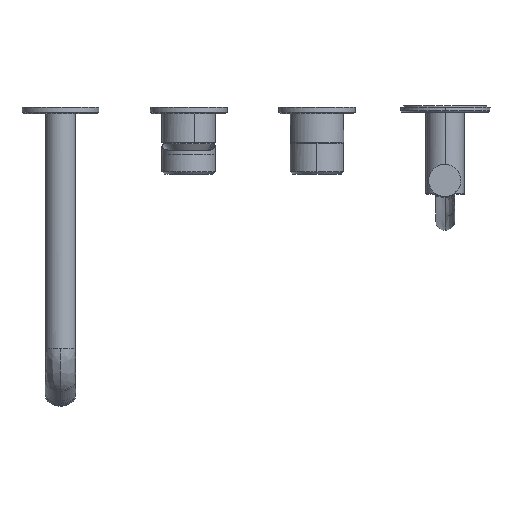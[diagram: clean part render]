
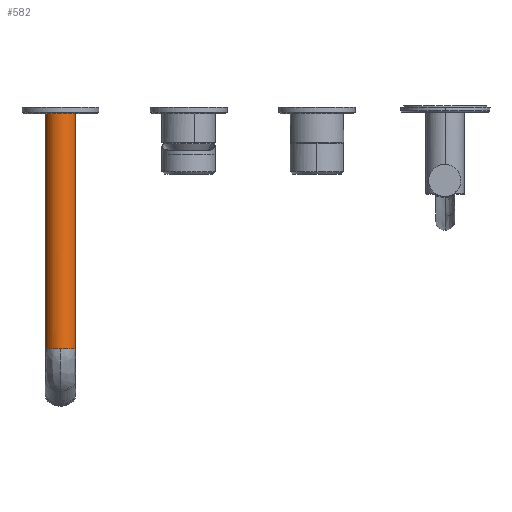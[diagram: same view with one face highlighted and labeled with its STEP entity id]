
A CAD part, top view. The second image highlights one B-rep face of the part: STEP entity #582.
In plain terms, the highlighted cylindrical face has radius 12 mm (diameter 24 mm), a partial arc.
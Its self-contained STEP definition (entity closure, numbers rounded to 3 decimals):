
#582=ADVANCED_FACE('',(#1632),#16079,.T.);
#1632=FACE_OUTER_BOUND('',#2687,.T.);
#2687=EDGE_LOOP('',(#4229,#4230,#4231,#4232,#4233));
#4229=ORIENTED_EDGE('',*,*,#8673,.T.);
#4230=ORIENTED_EDGE('',*,*,#8670,.T.);
#4231=ORIENTED_EDGE('',*,*,#8671,.T.);
#4232=ORIENTED_EDGE('',*,*,#8672,.T.);
#4233=ORIENTED_EDGE('',*,*,#8651,.F.);
#8651=EDGE_CURVE('',#13899,#13900,#12449,.T.);
#8670=EDGE_CURVE('',#13915,#13916,#12460,.T.);
#8671=EDGE_CURVE('',#13916,#13914,#11283,.T.);
#8672=EDGE_CURVE('',#13914,#13900,#12461,.T.);
#8673=EDGE_CURVE('',#13899,#13915,#11284,.T.);
#11283=B_SPLINE_CURVE_WITH_KNOTS('',1,(#23392,#23393,#23394),
 .UNSPECIFIED.,.F.,.F.,(2,1,2),(1.,6.,189.299),
 .UNSPECIFIED.);
#11284=B_SPLINE_CURVE_WITH_KNOTS('',1,(#23398,#23399,#23400),
 .UNSPECIFIED.,.F.,.F.,(2,1,2),(0.,183.299,188.299),
 .UNSPECIFIED.);
#12449=(
BOUNDED_CURVE()
B_SPLINE_CURVE(2,(#23324,#23325,#23326),.UNSPECIFIED.,.F.,.F.)
B_SPLINE_CURVE_WITH_KNOTS((3,3),(0.,18.85),.UNSPECIFIED.)
CURVE()
GEOMETRIC_REPRESENTATION_ITEM()
RATIONAL_B_SPLINE_CURVE((1.,0.707,1.))
REPRESENTATION_ITEM('')
);
#12460=(
BOUNDED_CURVE()
B_SPLINE_CURVE(2,(#23387,#23388,#23389,#23390,#23391),.UNSPECIFIED.,.F.,
 .F.)
B_SPLINE_CURVE_WITH_KNOTS((3,2,3),(1.571,3.142,4.712),
 .UNSPECIFIED.)
CURVE()
GEOMETRIC_REPRESENTATION_ITEM()
RATIONAL_B_SPLINE_CURVE((1.,0.707,1.,0.707,1.))
REPRESENTATION_ITEM('')
);
#12461=(
BOUNDED_CURVE()
B_SPLINE_CURVE(2,(#23395,#23396,#23397),.UNSPECIFIED.,.F.,.F.)
B_SPLINE_CURVE_WITH_KNOTS((3,3),(0.,18.85),.UNSPECIFIED.)
CURVE()
GEOMETRIC_REPRESENTATION_ITEM()
RATIONAL_B_SPLINE_CURVE((1.,0.707,1.))
REPRESENTATION_ITEM('')
);
#13899=VERTEX_POINT('',#23306);
#13900=VERTEX_POINT('',#23307);
#13914=VERTEX_POINT('',#23321);
#13915=VERTEX_POINT('',#23322);
#13916=VERTEX_POINT('',#23323);
#16079=CYLINDRICAL_SURFACE('',#16792,12.);
#16792=AXIS2_PLACEMENT_3D('',#23200,#17514,$);
#17514=DIRECTION('',(0.,-1.,0.));
#23200=CARTESIAN_POINT('',(-200.,-93.65,499.975));
#23306=CARTESIAN_POINT('',(-188.,-188.299,499.975));
#23307=CARTESIAN_POINT('',(-200.,-188.299,511.975));
#23321=CARTESIAN_POINT('',(-212.,-188.299,499.975));
#23322=CARTESIAN_POINT('',(-188.,0.,499.975));
#23323=CARTESIAN_POINT('',(-212.,0.,499.975));
#23324=CARTESIAN_POINT('',(-188.,-188.299,499.975));
#23325=CARTESIAN_POINT('',(-188.,-188.299,511.975));
#23326=CARTESIAN_POINT('',(-200.,-188.299,511.975));
#23387=CARTESIAN_POINT('',(-188.,0.,499.975));
#23388=CARTESIAN_POINT('',(-188.,0.,511.975));
#23389=CARTESIAN_POINT('',(-200.,0.,511.975));
#23390=CARTESIAN_POINT('',(-212.,0.,511.975));
#23391=CARTESIAN_POINT('',(-212.,0.,499.975));
#23392=CARTESIAN_POINT('',(-212.,0.,499.975));
#23393=CARTESIAN_POINT('',(-212.,-5.,499.975));
#23394=CARTESIAN_POINT('',(-212.,-188.299,499.975));
#23395=CARTESIAN_POINT('',(-212.,-188.299,499.975));
#23396=CARTESIAN_POINT('',(-212.,-188.299,511.975));
#23397=CARTESIAN_POINT('',(-200.,-188.299,511.975));
#23398=CARTESIAN_POINT('',(-188.,-188.299,499.975));
#23399=CARTESIAN_POINT('',(-188.,-5.,499.975));
#23400=CARTESIAN_POINT('',(-188.,0.,499.975));
